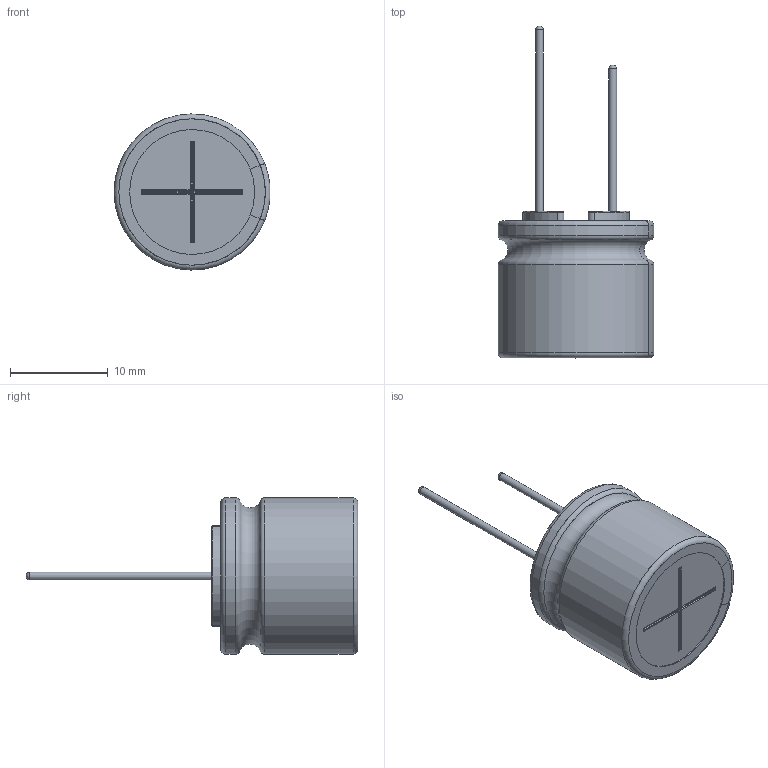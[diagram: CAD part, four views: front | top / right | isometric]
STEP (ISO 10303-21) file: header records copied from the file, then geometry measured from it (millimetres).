
FILE_DESCRIPTION(/* description */ (''),/* implementation_level */ '2;1');
FILE_NAME(/* name */ '16x15_Lead.stp',/* time_stamp */ '2017-09-05T14:39:43+09:00',/* author */ (''),/* organization */ (''),/* preprocessor_version */ 'ST-DEVELOPER v16',/* originating_system */ 'SIEMENS PLM Software NX 11.0',/* authorisation */ '');
FILE_SCHEMA (('AUTOMOTIVE_DESIGN { 1 0 10303 214 3 1 1 1 }'));
Length unit declared in the file: millimetre
Products named in the file (1): 16x15_Lead_0
Bounding box: 15.98 x 34 x 16 mm (x, y, z)
Volume: 2778.2 mm3; surface area: 2945.1 mm2
Topology: 3 solids, 3 shells, 132 faces, 328 edges, 205 vertices
Faces by surface type: cylinder 50, torus 35, plane 33, sphere 6, bspline 6, extrusion 2
Full cylindrical faces by diameter (mm): 0.8 x2, 15.8 x2
Entity records: 5217 total; most frequent: CARTESIAN_POINT 1367, DIRECTION 748, ORIENTED_EDGE 624, EDGE_CURVE 312, AXIS2_PLACEMENT_3D 311, VERTEX_POINT 200, CIRCLE 174, EDGE_LOOP 146
